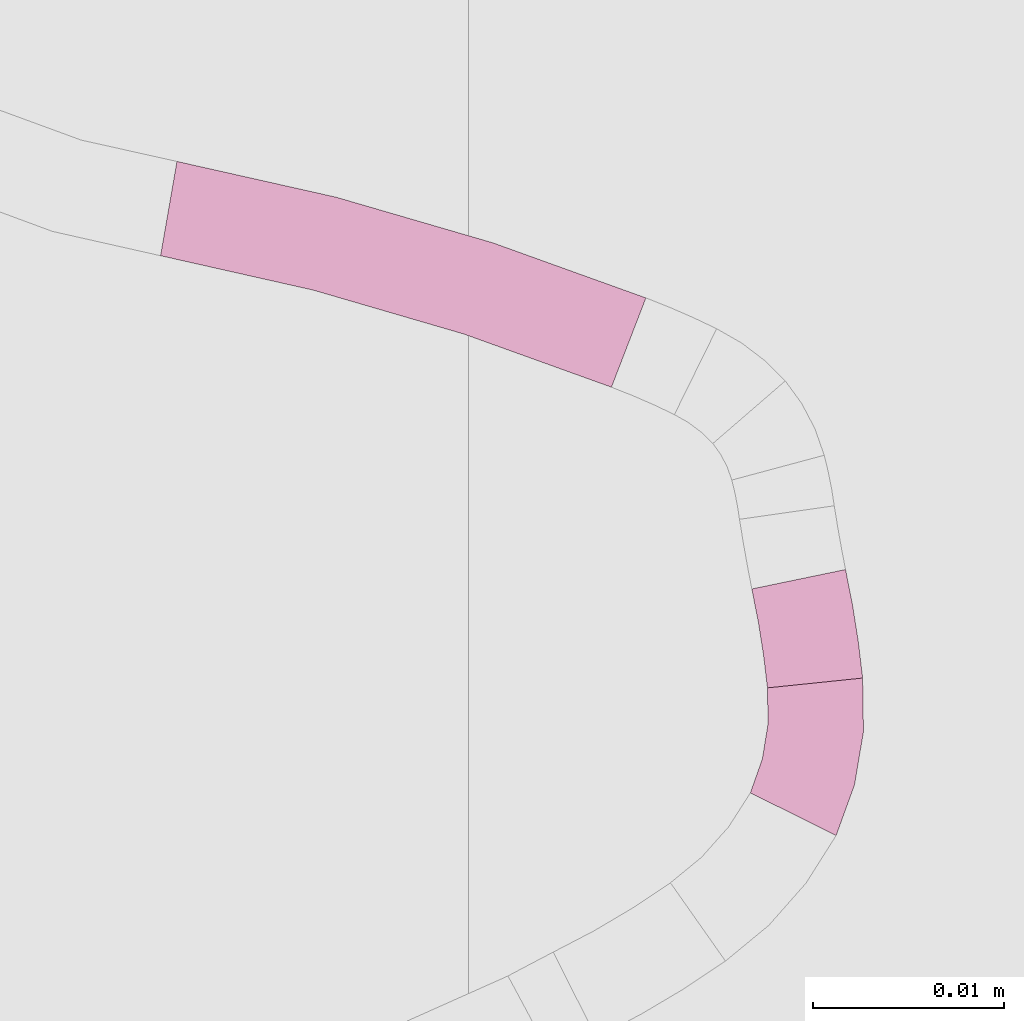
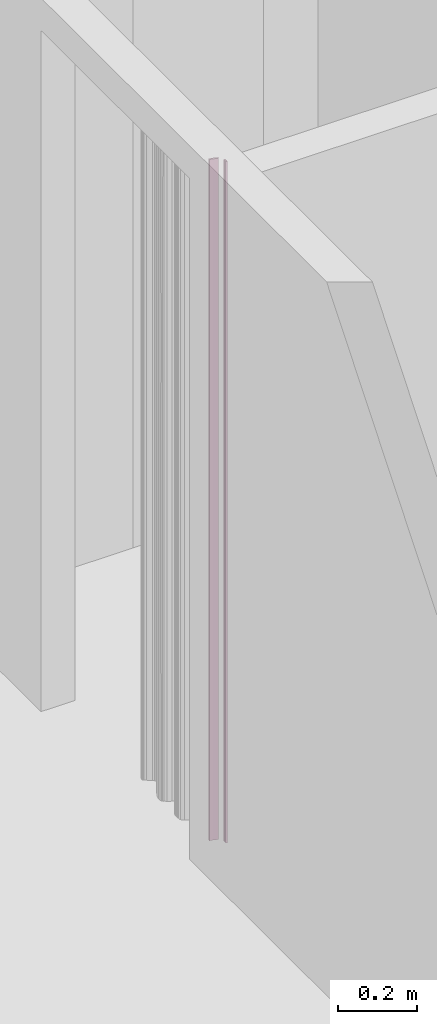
# One storey, part 271 of 418: 3 furnishings.
"""IFC2X3 building model written with IfcOpenShell, lengths in millimetres."""

from ifc_helpers import new_model, entity, si_unit, converted_unit, derived_unit, money_unit, point, direction, frame, frame_2d, origin_with_axes, place, context, subcontext, project, spatial, polyline, circle_curve, parameter, trimmed, segment, composite_curve, outline, extrude, material, type_object, element, save


model = new_model("IFC2X3")

# Units and contexts
model_context = context("Model", 3, precision=0.01, world=origin_with_axes(), true_north=direction((0.0, 1.0)))
body_context = subcontext(model_context, "Body", "Model", "MODEL_VIEW")
ifc_project = project(units=[si_unit("LENGTHUNIT", "METRE", prefix="MILLI"), si_unit("AREAUNIT", "SQUARE_METRE"), si_unit("VOLUMEUNIT", "CUBIC_METRE"), converted_unit("PLANEANGLEUNIT", "DEGREE", entity("IfcPlaneAngleMeasure", 0.0174532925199), si_unit("PLANEANGLEUNIT", "RADIAN"), dimensions=[0, 0, 0, 0, 0, 0, 0]), si_unit("SOLIDANGLEUNIT", "STERADIAN"), money_unit("EUR"), converted_unit("TIMEUNIT", "Year", entity("IfcTimeMeasure", 31556926.0), si_unit("TIMEUNIT", "SECOND"), dimensions=[0, 0, 1, 0, 0, 0, 0]), si_unit("MASSUNIT", "GRAM", prefix="KILO"), si_unit("THERMODYNAMICTEMPERATUREUNIT", "DEGREE_CELSIUS"), si_unit("LUMINOUSINTENSITYUNIT", "LUMEN"), si_unit("ENERGYUNIT", "JOULE", prefix="MEGA"), derived_unit("THERMALCONDUCTANCEUNIT", [(si_unit("POWERUNIT", "WATT"), 1), (si_unit("LENGTHUNIT", "METRE"), -1), (si_unit("THERMODYNAMICTEMPERATUREUNIT", "KELVIN"), -1)]), derived_unit("SPECIFICHEATCAPACITYUNIT", [(si_unit("ENERGYUNIT", "JOULE"), 1), (si_unit("MASSUNIT", "GRAM", prefix="KILO"), -1), (si_unit("THERMODYNAMICTEMPERATUREUNIT", "KELVIN"), -1)]), derived_unit("MASSDENSITYUNIT", [(si_unit("MASSUNIT", "GRAM", prefix="KILO"), 1), (si_unit("VOLUMEUNIT", "CUBIC_METRE"), -1)])], contexts=[model_context])

# Site, building, storey
site_placement = place(None, origin_with_axes())
site = spatial("IfcSite", under=ifc_project, at=site_placement, Name="Paldiski mnt 245/1, Tallinn, Harjumaa", CompositionType="COMPLEX")
building_placement = place(site_placement, origin_with_axes())
building = spatial("IfcBuilding", under=site, at=building_placement, Name="RKAS Hoone üldnimetus (kasutust iseloomustav) -> IFC Project Manager -> SOLIBRI", CompositionType="ELEMENT")
storey_placement = place(building_placement, origin_with_axes())
storey = spatial("IfcBuildingStorey", under=building, at=storey_placement, Name="Esimene korrus", CompositionType="ELEMENT", Elevation=0.0)

# Furnishings
ifc_material = material(Name="KON-00_GENEERILINE - KONSTRUKTSIOON")
furniture_type = type_object("IfcFurnitureType", Name="KON-00_GENEERILINE - KONSTRUKTSIOON 5", AssemblyPlace="NOTDEFINED")
furnishing_1_placement = place(storey_placement, frame((-45006.7838687, -1345.66313744, 0.0), z_axis=(0.0, 0.0, 1.0), x_axis=(-0.0997024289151, 0.99501729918, 0.0)))
element("IfcFurnishingElement", 1, at=furnishing_1_placement, inside=storey, type_object=furniture_type, material=ifc_material, Name="SS-48", context=body_context, shape_type="SweptSolid", body=[
    extrude(outline(composite_curve([segment(trimmed(circle_curve(frame_2d((0.0, 46.0433148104), x_axis=(0.000298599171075, -0.999999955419)), 51.0433148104), [point((0.0152414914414, -4.99999772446)), parameter(0.0)], [point((5.74665625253, -4.67547784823)), parameter(6.44718006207)], True, "CARTESIAN"), True, "CONTINUOUS"), segment(polyline([(5.74665625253, -4.67547784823), (5.22466707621, 0.297389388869)]), True, "CONTINUOUS"), segment(trimmed(circle_curve(frame_2d((0.0, 46.0433148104), x_axis=(0.0, -1.0)), 46.0433148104), [point((5.22466707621, 0.297389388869)), parameter(6.51555036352)], [point((0.0, 0.0)), parameter(0.0)], False, "CARTESIAN"), True, "CONTINUOUS"), segment(polyline([(0.0, 0.0), (0.0152414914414, -4.99999772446)]), True, "CONTINUOUS")], self_intersect=False)), origin_with_axes(), (0.0, 0.0, 1.0), 2100.0),
])
furnishing_2_placement = place(storey_placement, frame((-45007.675356, -1351.15066864, 0.0), z_axis=(0.0, 0.0, 1.0), x_axis=(0.415536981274, 0.909576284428, 0.0)))
element("IfcFurnishingElement", 2, at=furnishing_2_placement, inside=storey, type_object=furniture_type, material=ifc_material, Name="SS-49", context=body_context, shape_type="SweptSolid", body=[
    extrude(outline(composite_curve([segment(trimmed(circle_curve(frame_2d((0.0, 10.5171573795), x_axis=(-0.0105562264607, -0.999944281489)), 15.5171573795), [point((-0.16380262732, -4.9991354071)), parameter(0.0)], [point((7.89570302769, -2.84098795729)), parameter(31.1912290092)], True, "CARTESIAN"), True, "CONTINUOUS"), segment(polyline([(7.89570302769, -2.84098795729), (5.36177415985, 1.46939648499)]), True, "CONTINUOUS"), segment(trimmed(circle_curve(frame_2d((0.0, 10.5171573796), x_axis=(0.0, -1.0)), 10.5171573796), [point((5.36177415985, 1.46939648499)), parameter(30.6513150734)], [point((0.0, 0.0)), parameter(0.0)], False, "CARTESIAN"), True, "CONTINUOUS"), segment(polyline([(0.0, 0.0), (-0.16380262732, -4.9991354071)]), True, "CONTINUOUS")], self_intersect=False)), origin_with_axes(), (0.0, 0.0, 1.0), 2100.0),
])
furnishing_3_placement = place(storey_placement, frame((-45014.9361607, -1329.95218688, 0.0), z_axis=(0.0, 0.0, 1.0), x_axis=(-0.929858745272, 0.367916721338, 0.0)))
element("IfcFurnishingElement", 3, at=furnishing_3_placement, inside=storey, type_object=furniture_type, material=ifc_material, Name="SS-42", context=body_context, shape_type="SweptSolid", body=[
    extrude(outline(composite_curve([segment(trimmed(circle_curve(frame_2d((0.0, 132.054534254), x_axis=(0.000297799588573, -0.999999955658)), 137.054534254), [point((0.0408147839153, -4.99999392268)), parameter(0.0)], [point((25.4487560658, -2.61656945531)), parameter(10.6839178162)], True, "CARTESIAN"), True, "CONTINUOUS"), segment(polyline([(25.4487560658, -2.61656945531), (24.432336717, 2.2798797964)]), True, "CONTINUOUS"), segment(trimmed(circle_curve(frame_2d((0.0, 132.054534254), x_axis=(0.0, -1.0)), 132.054534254), [point((24.432336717, 2.2798797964)), parameter(10.6621248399)], [point((-1.7763568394e-10, 0.0)), parameter(0.0)], False, "CARTESIAN"), True, "CONTINUOUS"), segment(polyline([(-1.7763568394e-10, 0.0), (0.0408147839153, -4.99999392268)]), True, "CONTINUOUS")], self_intersect=False)), origin_with_axes(), (0.0, 0.0, 1.0), 2100.0),
])

save(model, "model.ifc")
